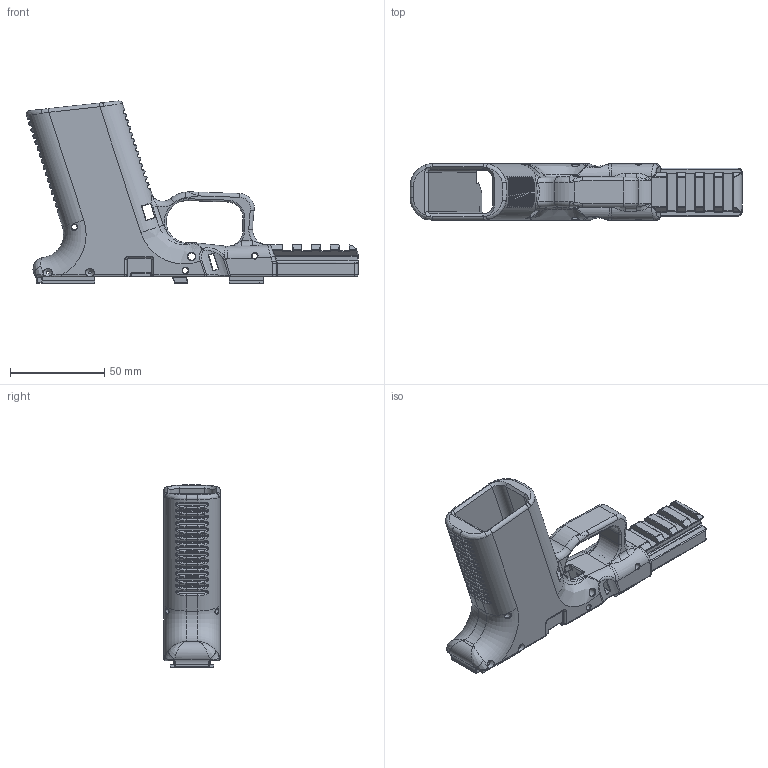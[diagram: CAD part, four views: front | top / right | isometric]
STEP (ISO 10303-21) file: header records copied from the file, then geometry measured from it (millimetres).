
FILE_DESCRIPTION(/* description */ (''),/* implementation_level */ '2;1');
FILE_NAME(/* name */ '/Users/tyler/Downloads/FreeMans Glock 19/FreeMans Glock 19.step',/* time_stamp */ '2019-09-18T22:13:27-04:00',/* author */ (''),/* organization */ (''),/* preprocessor_version */ 'ST-DEVELOPER v18',/* originating_system */ 'Autodesk Translation Framework v8.6.0.1094',/* authorisation */ '');
FILE_SCHEMA (('AUTOMOTIVE_DESIGN { 1 0 10303 214 3 1 1 }'));
Products named in the file (4): Glock 19 DIY; Front Rail G17 v1; Rear Rail Left; Rear Rail Right
Assembly tree (3 placements, depth 2):
  Glock 19 DIY
    Front Rail G17 v1
    Rear Rail Left
    Rear Rail Right
Bounding box: 176.48 x 30 x 96.84 mm (x, y, z)
Volume: 87272.1 mm3; surface area: 47702.8 mm2
Topology: 4 solids, 4 shells, 1655 faces, 3960 edges, 2225 vertices
Faces by surface type: cylinder 550, bspline 536, plane 332, torus 145, sphere 68, cone 24
Full cylindrical faces by diameter (mm): 1.623 x8, 2.997 x4, 3 x3, 3.962 x2
Entity records: 62548 total; most frequent: CARTESIAN_POINT 26189, ORIENTED_EDGE 7790, DIRECTION 7385, EDGE_CURVE 3895, AXIS2_PLACEMENT_3D 2974, VERTEX_POINT 2231, EDGE_LOOP 1686, FACE_OUTER_BOUND 1655
